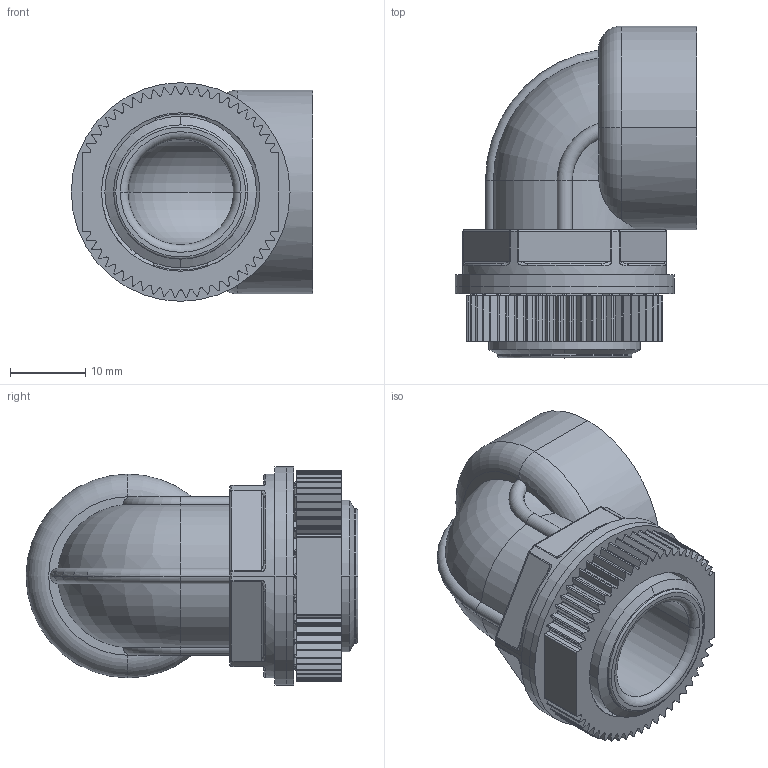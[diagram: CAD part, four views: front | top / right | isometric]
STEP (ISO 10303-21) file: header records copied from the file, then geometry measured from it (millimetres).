
FILE_DESCRIPTION(('CoCreate Modeling STEP Export'),'2;1');
FILE_NAME('19970331_OAL-16.stp','2011-08-05T11:29:59',(''),(''),'CoCreate Modeling STEP processor for AP214 (Solid Model)','CoCreate Modeling 17.00A 17-Jun-2010 (C) Parametric Technology GmbH','');
FILE_SCHEMA(('AUTOMOTIVE_DESIGN { 1 0 10303 214 1 1 1 1 }'));
Length unit declared in the file: millimetre
Products named in the file (5): OAL-16; 平ﾊﾟｯｷﾝ1; 平ﾊﾟｯｷﾝ2; ﾛｯｸﾅｯﾄ
Assembly tree (1 placements, depth 2):
  OAL-16
  平ﾊﾟｯｷﾝ1
  平ﾊﾟｯｷﾝ2
  ﾛｯｸﾅｯﾄ
    ﾛｯｸﾅｯﾄ
Bounding box: 32 x 44 x 29 mm (x, y, z)
Volume: 11820.8 mm3; surface area: 9876.7 mm2
Topology: 4 solids, 4 shells, 734 faces, 1997 edges, 1204 vertices
Faces by surface type: cylinder 355, plane 229, sphere 69, bspline 42, torus 35, cone 4
Entity records: 27844 total; most frequent: CARTESIAN_POINT 11047, ORIENTED_EDGE 3856, DIRECTION 3120, EDGE_CURVE 1928, VERTEX_POINT 1204, AXIS2_PLACEMENT_3D 1104, VECTOR 912, LINE 912
